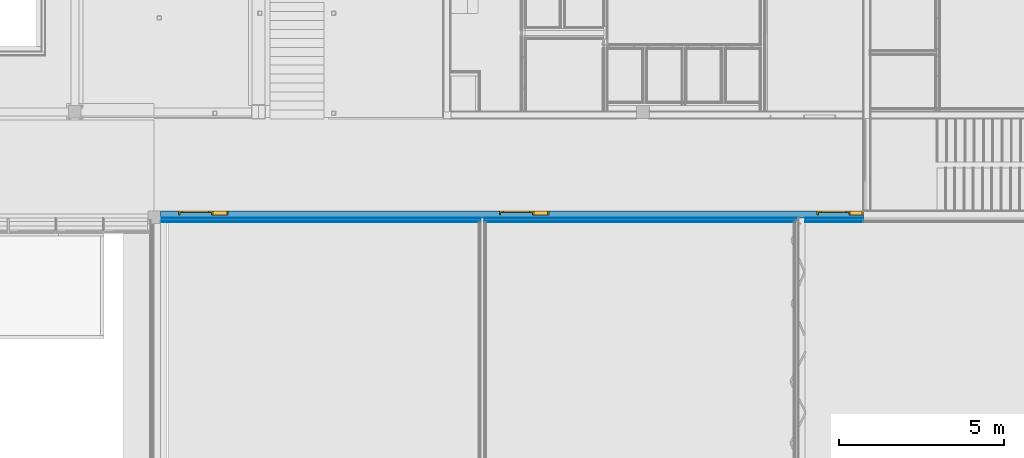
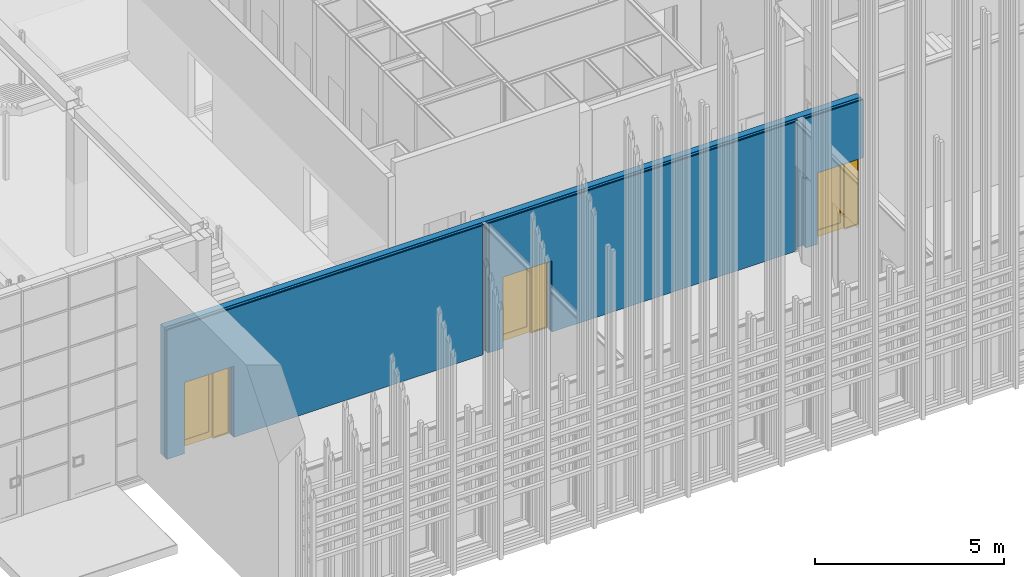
# One storey, part 119 of 260: 7 building element parts, 3 doors, 3 openings, 1 element without a shape of its own.
"""IFC2X3 building model written with IfcOpenShell, lengths in millimetres."""

from ifc_helpers import new_model, entity, si_unit, converted_unit, derived_unit, money_unit, direction, frame, origin_with_axes, place, context, subcontext, project, spatial, open_shell, faceted_brep, surface_model, source, transform, mapped, material, type_object, element, fill, aggregate, save


model = new_model("IFC2X3")

# Units and contexts
model_context = context("Model", 3, precision=0.01, world=origin_with_axes(), true_north=direction((0.0, 1.0)))
body_context = subcontext(model_context, "Body", "Model", "MODEL_VIEW")
ifc_project = project(units=[si_unit("LENGTHUNIT", "METRE", prefix="MILLI"), si_unit("AREAUNIT", "SQUARE_METRE"), si_unit("VOLUMEUNIT", "CUBIC_METRE"), converted_unit("PLANEANGLEUNIT", "DEGREE", entity("IfcPlaneAngleMeasure", 0.0174532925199), si_unit("PLANEANGLEUNIT", "RADIAN"), dimensions=[0, 0, 0, 0, 0, 0, 0]), money_unit("EUR"), converted_unit("TIMEUNIT", "Year", entity("IfcTimeMeasure", 31556926.0), si_unit("TIMEUNIT", "SECOND"), dimensions=[0, 0, 1, 0, 0, 0, 0]), si_unit("MASSUNIT", "GRAM", prefix="KILO"), si_unit("THERMODYNAMICTEMPERATUREUNIT", "DEGREE_CELSIUS"), si_unit("LUMINOUSINTENSITYUNIT", "LUMEN"), si_unit("ENERGYUNIT", "JOULE", prefix="MEGA"), derived_unit("THERMALCONDUCTANCEUNIT", [(si_unit("POWERUNIT", "WATT"), 1), (si_unit("LENGTHUNIT", "METRE"), -1), (si_unit("THERMODYNAMICTEMPERATUREUNIT", "KELVIN"), -1)]), derived_unit("SPECIFICHEATCAPACITYUNIT", [(si_unit("ENERGYUNIT", "JOULE"), 1), (si_unit("MASSUNIT", "GRAM", prefix="KILO"), -1), (si_unit("THERMODYNAMICTEMPERATUREUNIT", "KELVIN"), -1)]), derived_unit("MASSDENSITYUNIT", [(si_unit("MASSUNIT", "GRAM", prefix="KILO"), 1), (si_unit("VOLUMEUNIT", "CUBIC_METRE"), -1)])], contexts=[model_context])

# Site, building, storey
site_placement = place(None, origin_with_axes())
site = spatial("IfcSite", under=ifc_project, at=site_placement, Name="Kolde pst 67a", CompositionType="ELEMENT")
building_placement = place(site_placement, origin_with_axes())
building = spatial("IfcBuilding", under=site, at=building_placement, Name="Riigigümnaasium", CompositionType="ELEMENT")
storey_placement = place(building_placement, origin_with_axes())
storey = spatial("IfcBuildingStorey", under=building, at=storey_placement, Name="1. korrus", CompositionType="ELEMENT", Elevation=0.0)

# Door
door_style = type_object("IfcDoorStyle", Name="Door with Sidelight on Side 2 25", ConstructionType="NOTDEFINED", OperationType="SINGLE_SWING_LEFT", ParameterTakesPrecedence=False, Sizeable=False)
wall_placement = place(storey_placement, frame((55369.9802711, 7900.0, 0.0), z_axis=(0.0, 0.0, 1.0), x_axis=(1.0, 0.0, 0.0)))
opening_3_placement = place(wall_placement, frame((20540.0144264, 0.0, 0.0), z_axis=(0.0, 0.0, 1.0), x_axis=(1.0, 0.0, 0.0)))
door_1_placement = place(opening_3_placement, frame((-700.0, 0.0, 0.0), z_axis=(0.0, 0.0, 1.0), x_axis=(1.0, 0.0, 0.0)))
door_1 = element("IfcDoor", 1, at=door_1_placement, inside=storey, type_object=door_style, Name="Siseuks", ObjectType="DOOR", OverallHeight=2300.0, OverallWidth=1400.0, context=body_context, shape_type="SurfaceModel", body=[
    faceted_brep([(1400.0, 0.0, 0.0), (1400.0, -115.0, 0.0), (1360.0, -115.0, 0.0), (1360.0, 0.0, 0.0), (1400.0, 0.0, 2260.0), (1400.0, -115.0, 2260.0), (1360.0, -115.0, 2260.0), (1360.0, -115.0, 40.0), (1360.0, 0.0, 40.0), (1360.0, 0.0, 2260.0)], [[[0, 1, 2, 3]], [[4, 5, 1, 0]], [[1, 5, 6, 7, 2]], [[3, 2, 7, 8]], [[0, 3, 8, 9, 4]], [[9, 6, 5, 4]], [[8, 7, 6, 9]]]),
    faceted_brep([(960.004445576, -40.0, 0.0), (960.004445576, -115.0, 0.0), (960.004445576, -115.0, 2260.0), (960.004445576, -40.0, 2260.0), (972.004445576, -40.0, 0.0), (972.004445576, 0.0, 0.0), (1000.00444558, 0.0, 0.0), (1000.00444558, -115.0, 0.0), (1000.00444558, -115.0, 40.0), (1000.00444558, -115.0, 2260.0), (972.004445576, -40.0, 2260.0), (1000.00444558, 0.0, 2260.0), (972.004445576, 0.0, 2260.0), (1000.00444558, 0.0, 40.0)], [[[0, 1, 2, 3]], [[4, 5, 6, 7, 1, 0]], [[7, 8, 9, 2, 1]], [[10, 3, 2, 9, 11, 12]], [[10, 4, 0, 3]], [[12, 5, 4, 10]], [[12, 11, 13, 6, 5]], [[6, 13, 8, 7]], [[13, 11, 9, 8]]]),
    faceted_brep([(1360.0, 0.0, 40.0), (1360.0, -115.0, 40.0), (1360.0, -115.0, 0.0), (1360.0, 0.0, 0.0), (1000.00444558, 0.0, 40.0), (1000.00444558, -115.0, 40.0), (1000.00444558, -115.0, 0.0), (1000.00444558, 0.0, 0.0)], [[[0, 1, 2, 3]], [[4, 5, 1, 0]], [[1, 5, 6, 2]], [[3, 2, 6, 7]], [[0, 3, 7, 4]], [[7, 6, 5, 4]]]),
    faceted_brep([(28.0, -40.0, 2260.0), (28.0, 0.0, 2260.0), (0.0, 0.0, 2260.0), (0.0, -115.0, 2260.0), (40.0, -115.0, 2260.0), (40.0, -40.0, 2260.0), (28.0, -40.0, 0.0), (28.0, 0.0, 0.0), (0.0, 0.0, 0.0), (0.0, -115.0, 0.0), (40.0, -115.0, 0.0), (40.0, -40.0, 0.0)], [[[0, 1, 2, 3, 4, 5]], [[0, 6, 7, 1]], [[7, 8, 2, 1]], [[2, 8, 9, 3]], [[3, 9, 10, 4]], [[5, 4, 10, 11]], [[5, 11, 6, 0]], [[6, 11, 10, 9, 8, 7]]]),
    faceted_brep([(972.004445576, 0.0, 2272.0), (28.0, 0.0, 2272.0), (28.0, 0.0, 2260.0), (0.0, 0.0, 2260.0), (0.0, 0.0, 2300.0), (1400.0, 0.0, 2300.0), (1400.0, 0.0, 2260.0), (1360.0, 0.0, 2260.0), (1000.00444558, 0.0, 2260.0), (972.004445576, 0.0, 2260.0), (972.004445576, -40.0, 2272.0), (28.0, -40.0, 2272.0), (28.0, -40.0, 2260.0), (40.0, -40.0, 2260.0), (40.0, -115.0, 2260.0), (0.0, -115.0, 2260.0), (0.0, -115.0, 2300.0), (1400.0, -115.0, 2300.0), (1400.0, -115.0, 2260.0), (1360.0, -115.0, 2260.0), (1000.00444558, -115.0, 2260.0), (972.004445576, -40.0, 2260.0), (960.004445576, -115.0, 2260.0)], [[[0, 1, 2, 3, 4, 5, 6, 7, 8, 9]], [[0, 10, 11, 1]], [[1, 11, 12, 2]], [[12, 13, 14, 15, 3, 2]], [[4, 3, 15, 16]], [[5, 4, 16, 17]], [[6, 5, 17, 18]], [[7, 6, 18, 19]], [[8, 7, 19, 20]], [[21, 9, 8, 20, 22, 14, 13]], [[9, 21, 10, 0]], [[12, 11, 10, 21, 13]], [[14, 22, 20, 19, 18, 17, 16, 15]]]),
    faceted_brep([(28.0, 0.0, 200.0), (128.0, 0.0, 200.0), (128.0, -40.0, 200.0), (28.0, -40.0, 200.0), (28.0, 0.0, 2172.0), (128.0, 0.0, 2172.0), (128.0, -40.0, 2172.0), (28.0, -40.0, 2172.0)], [[[0, 1, 2, 3]], [[0, 4, 5, 1]], [[1, 5, 6, 2]], [[3, 2, 6, 7]], [[4, 0, 3, 7]], [[5, 4, 7, 6]]]),
    faceted_brep([(972.004445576, 0.0, 200.0), (972.004445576, 0.0, 2172.0), (972.004445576, -40.0, 2172.0), (972.004445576, -40.0, 200.0), (872.004445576, 0.0, 200.0), (872.004445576, 0.0, 2172.0), (872.004445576, -40.0, 2172.0), (872.004445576, -40.0, 200.0)], [[[0, 1, 2, 3]], [[0, 4, 5, 1]], [[1, 5, 6, 2]], [[3, 2, 6, 7]], [[4, 0, 3, 7]], [[5, 4, 7, 6]]]),
    faceted_brep([(28.0, 0.0, 0.0), (972.004445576, 0.0, 0.0), (972.004445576, -40.0, 0.0), (28.0, -40.0, 0.0), (28.0, 0.0, 200.0), (128.0, 0.0, 200.0), (872.004445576, 0.0, 200.0), (972.004445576, 0.0, 200.0), (972.004445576, -40.0, 200.0), (872.004445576, -40.0, 200.0), (128.0, -40.0, 200.0), (28.0, -40.0, 200.0)], [[[0, 1, 2, 3]], [[0, 4, 5, 6, 7, 1]], [[1, 7, 8, 2]], [[3, 2, 8, 9, 10, 11]], [[4, 0, 3, 11]], [[5, 4, 11, 10]], [[6, 5, 10, 9]], [[7, 6, 9, 8]]]),
    faceted_brep([(28.0, 0.0, 2272.0), (28.0, 0.0, 2172.0), (28.0, -40.0, 2172.0), (28.0, -40.0, 2272.0), (972.004445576, 0.0, 2272.0), (972.004445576, 0.0, 2172.0), (872.004445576, 0.0, 2172.0), (128.0, 0.0, 2172.0), (128.0, -40.0, 2172.0), (872.004445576, -40.0, 2172.0), (972.004445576, -40.0, 2172.0), (972.004445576, -40.0, 2272.0)], [[[0, 1, 2, 3]], [[0, 4, 5, 6, 7, 1]], [[1, 7, 8, 2]], [[3, 2, 8, 9, 10, 11]], [[4, 0, 3, 11]], [[5, 4, 11, 10]], [[6, 5, 10, 9]], [[7, 6, 9, 8]]]),
    surface_model("IfcShellBasedSurfaceModel", [(128.0, -14.0, 200.0), (128.0, -14.0, 2172.0), (872.004445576, -14.0, 2172.0), (872.004445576, -14.0, 200.0)], [open_shell([[[0, 1, 2, 3]]])]),
    surface_model("IfcShellBasedSurfaceModel", [(128.0, -26.0, 200.0), (872.004445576, -26.0, 200.0), (872.004445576, -26.0, 2172.0), (128.0, -26.0, 2172.0)], [open_shell([[[0, 1, 2, 3]]])]),
    surface_model("IfcShellBasedSurfaceModel", [(1360.0, -91.0, 40.0), (1000.00444558, -91.0, 40.0), (1000.00444558, -91.0, 2260.0), (1360.0, -91.0, 2260.0)], [open_shell([[[0, 1, 2, 3]]])]),
    surface_model("IfcShellBasedSurfaceModel", [(1360.0, -103.0, 40.0), (1360.0, -103.0, 2260.0), (1000.00444558, -103.0, 2260.0), (1000.00444558, -103.0, 40.0)], [open_shell([[[0, 1, 2, 3]]])]),
])

shared_shape = source(origin_with_axes(), body_context, "Body", "SurfaceModel", [
    faceted_brep([(750.0, 0.0, 0.0), (750.0, -115.0, 0.0), (710.0, -115.0, 0.0), (710.0, 0.0, 0.0), (750.0, 0.0, 2260.0), (750.0, -115.0, 2260.0), (710.0, -115.0, 2260.0), (710.0, -115.0, 40.0), (710.0, 0.0, 40.0), (710.0, 0.0, 2260.0)], [[[0, 1, 2, 3]], [[4, 5, 1, 0]], [[1, 5, 6, 7, 2]], [[3, 2, 7, 8]], [[0, 3, 8, 9, 4]], [[9, 6, 5, 4]], [[8, 7, 6, 9]]]),
    faceted_brep([(250.0, -40.0, 0.0), (250.0, -115.0, 0.0), (250.0, -115.0, 2260.0), (250.0, -40.0, 2260.0), (262.0, -40.0, 0.0), (262.0, 0.0, 0.0), (290.0, 0.0, 0.0), (290.0, -115.0, 0.0), (290.0, -115.0, 40.0), (290.0, -115.0, 2260.0), (262.0, -40.0, 2260.0), (290.0, 0.0, 2260.0), (262.0, 0.0, 2260.0), (290.0, 0.0, 40.0)], [[[0, 1, 2, 3]], [[4, 5, 6, 7, 1, 0]], [[7, 8, 9, 2, 1]], [[10, 3, 2, 9, 11, 12]], [[10, 4, 0, 3]], [[12, 5, 4, 10]], [[12, 11, 13, 6, 5]], [[6, 13, 8, 7]], [[13, 11, 9, 8]]]),
    faceted_brep([(710.0, 0.0, 40.0), (710.0, -115.0, 40.0), (710.0, -115.0, 0.0), (710.0, 0.0, 0.0), (290.0, 0.0, 40.0), (290.0, -115.0, 40.0), (290.0, -115.0, 0.0), (290.0, 0.0, 0.0)], [[[0, 1, 2, 3]], [[4, 5, 1, 0]], [[1, 5, 6, 2]], [[3, 2, 6, 7]], [[0, 3, 7, 4]], [[7, 6, 5, 4]]]),
    faceted_brep([(-722.0, -40.0, 2260.0), (-722.0, 0.0, 2260.0), (-750.0, 0.0, 2260.0), (-750.0, -115.0, 2260.0), (-710.0, -115.0, 2260.0), (-710.0, -40.0, 2260.0), (-722.0, -40.0, 0.0), (-722.0, 0.0, 0.0), (-750.0, 0.0, 0.0), (-750.0, -115.0, 0.0), (-710.0, -115.0, 0.0), (-710.0, -40.0, 0.0)], [[[0, 1, 2, 3, 4, 5]], [[0, 6, 7, 1]], [[7, 8, 2, 1]], [[2, 8, 9, 3]], [[3, 9, 10, 4]], [[5, 4, 10, 11]], [[5, 11, 6, 0]], [[6, 11, 10, 9, 8, 7]]]),
    faceted_brep([(262.0, 0.0, 2272.0), (-722.0, 0.0, 2272.0), (-722.0, 0.0, 2260.0), (-750.0, 0.0, 2260.0), (-750.0, 0.0, 2300.0), (750.0, 0.0, 2300.0), (750.0, 0.0, 2260.0), (710.0, 0.0, 2260.0), (290.0, 0.0, 2260.0), (262.0, 0.0, 2260.0), (262.0, -40.0, 2272.0), (-722.0, -40.0, 2272.0), (-722.0, -40.0, 2260.0), (-710.0, -40.0, 2260.0), (-710.0, -115.0, 2260.0), (-750.0, -115.0, 2260.0), (-750.0, -115.0, 2300.0), (750.0, -115.0, 2300.0), (750.0, -115.0, 2260.0), (710.0, -115.0, 2260.0), (290.0, -115.0, 2260.0), (262.0, -40.0, 2260.0), (250.0, -115.0, 2260.0)], [[[0, 1, 2, 3, 4, 5, 6, 7, 8, 9]], [[0, 10, 11, 1]], [[1, 11, 12, 2]], [[12, 13, 14, 15, 3, 2]], [[4, 3, 15, 16]], [[5, 4, 16, 17]], [[6, 5, 17, 18]], [[7, 6, 18, 19]], [[8, 7, 19, 20]], [[21, 9, 8, 20, 22, 14, 13]], [[9, 21, 10, 0]], [[12, 11, 10, 21, 13]], [[14, 22, 20, 19, 18, 17, 16, 15]]]),
    faceted_brep([(-722.0, 0.0, 200.0), (-622.0, 0.0, 200.0), (-622.0, -40.0, 200.0), (-722.0, -40.0, 200.0), (-722.0, 0.0, 2172.0), (-622.0, 0.0, 2172.0), (-622.0, -40.0, 2172.0), (-722.0, -40.0, 2172.0)], [[[0, 1, 2, 3]], [[0, 4, 5, 1]], [[1, 5, 6, 2]], [[3, 2, 6, 7]], [[4, 0, 3, 7]], [[5, 4, 7, 6]]]),
    faceted_brep([(262.0, 0.0, 200.0), (262.0, 0.0, 2172.0), (262.0, -40.0, 2172.0), (262.0, -40.0, 200.0), (162.0, 0.0, 200.0), (162.0, 0.0, 2172.0), (162.0, -40.0, 2172.0), (162.0, -40.0, 200.0)], [[[0, 1, 2, 3]], [[0, 4, 5, 1]], [[1, 5, 6, 2]], [[3, 2, 6, 7]], [[4, 0, 3, 7]], [[5, 4, 7, 6]]]),
    faceted_brep([(-722.0, 0.0, 0.0), (262.0, 0.0, 0.0), (262.0, -40.0, 0.0), (-722.0, -40.0, 0.0), (-722.0, 0.0, 200.0), (-622.0, 0.0, 200.0), (162.0, 0.0, 200.0), (262.0, 0.0, 200.0), (262.0, -40.0, 200.0), (162.0, -40.0, 200.0), (-622.0, -40.0, 200.0), (-722.0, -40.0, 200.0)], [[[0, 1, 2, 3]], [[0, 4, 5, 6, 7, 1]], [[1, 7, 8, 2]], [[3, 2, 8, 9, 10, 11]], [[4, 0, 3, 11]], [[5, 4, 11, 10]], [[6, 5, 10, 9]], [[7, 6, 9, 8]]]),
    faceted_brep([(-722.0, 0.0, 2272.0), (-722.0, 0.0, 2172.0), (-722.0, -40.0, 2172.0), (-722.0, -40.0, 2272.0), (262.0, 0.0, 2272.0), (262.0, 0.0, 2172.0), (162.0, 0.0, 2172.0), (-622.0, 0.0, 2172.0), (-622.0, -40.0, 2172.0), (162.0, -40.0, 2172.0), (262.0, -40.0, 2172.0), (262.0, -40.0, 2272.0)], [[[0, 1, 2, 3]], [[0, 4, 5, 6, 7, 1]], [[1, 7, 8, 2]], [[3, 2, 8, 9, 10, 11]], [[4, 0, 3, 11]], [[5, 4, 11, 10]], [[6, 5, 10, 9]], [[7, 6, 9, 8]]]),
    surface_model("IfcShellBasedSurfaceModel", [(-622.0, -14.0, 200.0), (-622.0, -14.0, 2172.0), (162.0, -14.0, 2172.0), (162.0, -14.0, 200.0)], [open_shell([[[0, 1, 2, 3]]])]),
    surface_model("IfcShellBasedSurfaceModel", [(-622.0, -26.0, 200.0), (162.0, -26.0, 200.0), (162.0, -26.0, 2172.0), (-622.0, -26.0, 2172.0)], [open_shell([[[0, 1, 2, 3]]])]),
    surface_model("IfcShellBasedSurfaceModel", [(710.0, -91.0, 40.0), (290.0, -91.0, 40.0), (290.0, -91.0, 2260.0), (710.0, -91.0, 2260.0)], [open_shell([[[0, 1, 2, 3]]])]),
    surface_model("IfcShellBasedSurfaceModel", [(710.0, -103.0, 40.0), (710.0, -103.0, 2260.0), (290.0, -103.0, 2260.0), (290.0, -103.0, 40.0)], [open_shell([[[0, 1, 2, 3]]])]),
])
opening_1_placement = place(wall_placement, frame((1290.00089816, 0.0, 0.0), z_axis=(0.0, 0.0, 1.0), x_axis=(1.0, 0.0, 0.0)))
door_2_placement = place(opening_1_placement, frame((-750.0, 0.0, 0.0), z_axis=(0.0, 0.0, 1.0), x_axis=(1.0, 0.0, 0.0)))
door_2 = element("IfcDoor", 2, at=door_2_placement, inside=storey, type_object=door_style, Name="Siseuks", ObjectType="DOOR", OverallHeight=2300.0, OverallWidth=1500.0, context=body_context, shape_type="MappedRepresentation", body=[
    mapped(shared_shape, transform((750.0, 0.0, 0.0))),
])

opening_2_placement = place(wall_placement, frame((10990.0101657, 0.0, 0.0), z_axis=(0.0, 0.0, 1.0), x_axis=(1.0, 0.0, 0.0)))
door_3_placement = place(opening_2_placement, frame((-750.0, 0.0, 0.0), z_axis=(0.0, 0.0, 1.0), x_axis=(1.0, 0.0, 0.0)))
door_3 = element("IfcDoor", 3, at=door_3_placement, inside=storey, type_object=door_style, Name="Siseuks", ObjectType="DOOR", OverallHeight=2300.0, OverallWidth=1500.0, context=body_context, shape_type="MappedRepresentation", body=[
    mapped(shared_shape, transform((750.0, 0.0, 0.0))),
])

# Wall, opening
wall_type = type_object("IfcWallType", Name="SS-CLT-20/1_vill+krohv 340", PredefinedType="NOTDEFINED")
wall = element("IfcWall", 4, at=wall_placement, inside=storey, type_object=wall_type, Name="Sisesein")
opening_1 = element("IfcOpeningElement", 5, at=opening_1_placement, cuts=wall, Name="Siseuks", context=body_context, shape_type="Brep", body=[
    faceted_brep([(-750.0, 680.0, 2300.0), (-750.0, 680.0, 0.0), (-750.0, -340.0, 0.0), (-750.0, -340.0, 2300.0), (750.0, 680.0, 2300.0), (750.0, 680.0, 0.0), (750.0, -340.0, 0.0), (750.0, -340.0, 2300.0)], [[[0, 1, 2, 3]], [[0, 4, 5, 1]], [[1, 5, 6, 2]], [[3, 2, 6, 7]], [[4, 0, 3, 7]], [[5, 4, 7, 6]]]),
])

fill(opening_1, door_2)

# Opening
opening_2 = element("IfcOpeningElement", 6, at=opening_2_placement, cuts=wall, Name="Siseuks", context=body_context, shape_type="Brep", body=[
    faceted_brep([(-750.0, 680.0, 2300.0), (-750.0, 680.0, 0.0), (-750.0, -340.0, 0.0), (-750.0, -340.0, 2300.0), (750.0, 680.0, 2300.0), (750.0, 680.0, 0.0), (750.0, -340.0, 0.0), (750.0, -340.0, 2300.0)], [[[0, 1, 2, 3]], [[0, 4, 5, 1]], [[1, 5, 6, 2]], [[3, 2, 6, 7]], [[4, 0, 3, 7]], [[5, 4, 7, 6]]]),
])

fill(opening_2, door_3)

opening_3 = element("IfcOpeningElement", 7, at=opening_3_placement, cuts=wall, Name="Siseuks", context=body_context, shape_type="Brep", body=[
    faceted_brep([(-700.0, 680.0, 2300.0), (-700.0, 680.0, 0.0), (-700.0, -340.0, 0.0), (-700.0, -340.0, 2300.0), (700.0, 680.0, 2300.0), (700.0, 680.0, 0.0), (700.0, -340.0, 0.0), (700.0, -340.0, 2300.0)], [[[0, 1, 2, 3]], [[0, 4, 5, 1]], [[1, 5, 6, 2]], [[3, 2, 6, 7]], [[4, 0, 3, 7]], [[5, 4, 7, 6]]]),
])

fill(opening_3, door_1)

# Building element part
ifc_material_1 = material(Name="_KANDETARIND - CLT ristkihtliimpuit vastavalt EK osale, CLT paigaldusvuugid teibitakse ROTHOBLAAS teibiga")
building_element_part_1_placement = place(wall_placement, origin_with_axes())
building_element_part_1 = element("IfcBuildingElementPart", 8, at=building_element_part_1_placement, material=ifc_material_1, Name="_KANDETARIND - CLT ristkihtliimpuit vastavalt EK osale, CLT paigaldusvuugid teibitakse ROTHOBLAAS teibiga", context=body_context, shape_type="Brep", body=[
    faceted_brep([(21240.0144264, -200.0, 4170.0), (21240.0144264, -200.0, 2300.0), (21240.0144264, 0.0, 2300.0), (21240.0144264, 0.0, 4170.0), (19840.0144264, -200.0, 0.0), (19840.0144264, -200.0, 2300.0), (0.0, -200.0, 4170.0), (0.0, -200.0, 0.0), (540.00089816, -200.0, 0.0), (540.00089816, -200.0, 2300.0), (2040.00089816, -200.0, 2300.0), (2040.00089816, -200.0, 0.0), (10240.0101657, -200.0, 0.0), (10240.0101657, -200.0, 2300.0), (11740.0101657, -200.0, 2300.0), (11740.0101657, -200.0, 0.0), (19840.0144264, 0.0, 2300.0), (19840.0144264, 0.0, 0.0), (11740.0101657, 0.0, 0.0), (11740.0101657, 0.0, 2300.0), (10240.0101657, 0.0, 2300.0), (10240.0101657, 0.0, 0.0), (2040.00089816, 0.0, 0.0), (2040.00089816, 0.0, 2300.0), (540.00089816, 0.0, 2300.0), (540.00089816, 0.0, 0.0), (0.0, 0.0, 0.0), (0.0, 0.0, 4170.0)], [[[0, 1, 2, 3]], [[4, 5, 1, 0, 6, 7, 8, 9, 10, 11, 12, 13, 14, 15]], [[5, 16, 2, 1]], [[2, 16, 17, 18, 19, 20, 21, 22, 23, 24, 25, 26, 27, 3]], [[27, 6, 0, 3]], [[4, 17, 16, 5]], [[26, 7, 6, 27]], [[8, 7, 26, 25]], [[24, 9, 8, 25]], [[23, 10, 9, 24]], [[22, 11, 10, 23]], [[21, 12, 11, 22]], [[21, 20, 13, 12]], [[20, 19, 14, 13]], [[19, 18, 15, 14]], [[18, 17, 4, 15]]]),
])

ifc_material_2 = material(Name="_ÕHKVAHE")
building_element_part_2_placement = place(wall_placement, origin_with_axes())
building_element_part_2 = element("IfcBuildingElementPart", 9, at=building_element_part_2_placement, material=ifc_material_2, Name="_ÕHKVAHE", context=body_context, shape_type="Brep", body=[
    faceted_brep([(2040.00089816, -200.0, 2300.0), (540.00089816, -200.0, 2300.0), (540.00089816, -200.0, 0.0), (0.0, -200.0, 0.0), (0.0, -200.0, 4170.0), (9680.01016569, -200.0, 4170.0), (9680.01016569, -200.0, 0.0), (2040.00089816, -200.0, 0.0), (540.00089816, -215.0, 2300.0), (2040.00089816, -215.0, 2300.0), (540.00089816, -215.0, 0.0), (0.0, -215.0, 0.0), (0.0, -215.0, 4170.0), (9680.01016569, -215.0, 4170.0), (9680.01016569, -215.0, 0.0), (2040.00089816, -215.0, 0.0)], [[[0, 1, 2, 3, 4, 5, 6, 7]], [[8, 1, 0, 9]], [[10, 2, 1, 8]], [[3, 2, 10, 11]], [[12, 4, 3, 11]], [[13, 5, 4, 12]], [[5, 13, 14, 6]], [[14, 15, 7, 6]], [[9, 0, 7, 15]], [[8, 9, 15, 14, 13, 12, 11, 10]]]),
    faceted_brep([(21240.0144264, -215.0, 2300.0), (21240.0144264, -200.0, 2300.0), (21240.0144264, -200.0, 4170.0), (21240.0144264, -215.0, 4170.0), (19840.0144264, -200.0, 2300.0), (19840.0144264, -215.0, 2300.0), (19840.0144264, -200.0, 0.0), (19480.0146113, -200.0, 0.0), (19480.0146113, -200.0, 4170.0), (19480.0146113, -215.0, 4170.0), (19480.0146113, -215.0, 0.0), (19840.0144264, -215.0, 0.0)], [[[0, 1, 2, 3]], [[4, 1, 0, 5]], [[4, 6, 7, 8, 2, 1]], [[2, 8, 9, 3]], [[5, 0, 3, 9, 10, 11]], [[6, 4, 5, 11]], [[6, 11, 10, 7]], [[8, 7, 10, 9]]]),
    faceted_brep([(10240.0101657, -200.0, 2300.0), (10240.0101657, -200.0, 0.0), (9780.01016569, -200.0, 0.0), (9780.01016569, -200.0, 4170.0), (19280.0146113, -200.0, 4170.0), (19280.0146113, -200.0, 0.0), (11740.0101657, -200.0, 0.0), (11740.0101657, -200.0, 2300.0), (10240.0101657, -215.0, 2300.0), (10240.0101657, -215.0, 0.0), (9780.01016569, -215.0, 0.0), (9780.01016569, -215.0, 4170.0), (19280.0146113, -215.0, 4170.0), (19280.0146113, -215.0, 0.0), (11740.0101657, -215.0, 0.0), (11740.0101657, -215.0, 2300.0)], [[[0, 1, 2, 3, 4, 5, 6, 7]], [[1, 0, 8, 9]], [[1, 9, 10, 2]], [[3, 2, 10, 11]], [[4, 3, 11, 12]], [[12, 13, 5, 4]], [[14, 6, 5, 13]], [[7, 6, 14, 15]], [[0, 7, 15, 8]], [[15, 14, 13, 12, 11, 10, 9, 8]]]),
])

ifc_material_3 = material(Name="_KARKASS - metallkarkass CW 75/50/06 ja UW 75/40/06, samm 600, vahel mineraalvill, helineeldetegur αw = 1.0,  ISOVER ACOUSTIC 75mm või samaväärne")
building_element_part_3_placement = place(wall_placement, origin_with_axes())
building_element_part_3 = element("IfcBuildingElementPart", 10, at=building_element_part_3_placement, material=ifc_material_3, Name="_KARKASS - metallkarkass CW 75/50/06 ja UW 75/40/06, samm 600, vahel mineraalvill, helineeldetegur αw = 1.0,  ISOVER ACOUSTIC 75mm või samaväärne", context=body_context, shape_type="Brep", body=[
    faceted_brep([(2040.00089816, -215.0, 0.0), (2040.00089816, -215.0, 2300.0), (540.00089816, -215.0, 2300.0), (540.00089816, -215.0, 0.0), (0.0, -215.0, 0.0), (0.0, -215.0, 4170.0), (9680.01016569, -215.0, 4170.0), (9680.01016569, -215.0, 0.0), (2040.00089816, -290.0, 0.0), (2040.00089816, -290.0, 2300.0), (540.00089816, -290.0, 2300.0), (540.00089816, -290.0, 0.0), (0.0, -290.0, 0.0), (0.00102316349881, -279.845539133, 4170.0), (0.00106320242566, -289.999999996, 4170.0), (9680.01016569, -290.0, 4170.0), (9680.01016569, -290.0, 0.0)], [[[0, 1, 2, 3, 4, 5, 6, 7]], [[8, 9, 1, 0]], [[9, 10, 2, 1]], [[10, 11, 3, 2]], [[12, 4, 3, 11]], [[13, 5, 4, 12, 14]], [[15, 6, 5, 13, 14]], [[7, 6, 15, 16]], [[7, 16, 8, 0]], [[11, 10, 9, 8, 16, 15, 14, 12]]]),
    faceted_brep([(21240.0144264, -290.0, 2300.0), (21240.0144264, -215.0, 2300.0), (21240.0144264, -215.0, 4170.0), (21240.0144264, -290.0, 4170.0), (19840.0144264, -215.0, 2300.0), (19840.0144264, -290.0, 2300.0), (19840.0144264, -215.0, 0.0), (19480.0146113, -215.0, 0.0), (19480.0146113, -215.0, 4170.0), (19480.0146113, -290.0, 4170.0), (19480.0146113, -290.0, 0.0), (19840.0144264, -290.0, 0.0)], [[[0, 1, 2, 3]], [[4, 1, 0, 5]], [[4, 6, 7, 8, 2, 1]], [[2, 8, 9, 3]], [[5, 0, 3, 9, 10, 11]], [[6, 4, 5, 11]], [[6, 11, 10, 7]], [[8, 7, 10, 9]]]),
    faceted_brep([(10240.0101657, -215.0, 2300.0), (10240.0101657, -215.0, 0.0), (9780.01016569, -215.0, 0.0), (9780.01016569, -215.0, 4170.0), (19265.0146113, -215.0, 4170.0), (19265.0146113, -215.0, 0.0), (11740.0101657, -215.0, 0.0), (11740.0101657, -215.0, 2300.0), (10240.0101657, -290.0, 2300.0), (10240.0101657, -290.0, 0.0), (9780.01016569, -290.0, 0.0), (9780.01016569, -290.0, 4170.0), (19265.0146113, -290.0, 4170.0), (19265.0146113, -290.0, 0.0), (11740.0101657, -290.0, 0.0), (11740.0101657, -290.0, 2300.0)], [[[0, 1, 2, 3, 4, 5, 6, 7]], [[1, 0, 8, 9]], [[1, 9, 10, 2]], [[3, 2, 10, 11]], [[4, 3, 11, 12]], [[12, 13, 5, 4]], [[14, 6, 5, 13]], [[7, 6, 14, 15]], [[0, 7, 15, 8]], [[15, 14, 13, 12, 11, 10, 9, 8]]]),
])

ifc_material_4 = material(Name="_PLAATMATERJAL - OSB3 plaat")
building_element_part_4_placement = place(wall_placement, origin_with_axes())
building_element_part_4 = element("IfcBuildingElementPart", 11, at=building_element_part_4_placement, material=ifc_material_4, Name="_PLAATMATERJAL - OSB3 plaat", context=body_context, shape_type="Brep", body=[
    faceted_brep([(2040.00089816, -289.999999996, 2300.0), (540.00089816, -289.999999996, 2300.0), (540.00089816, -290.0, 0.0), (0.0, -290.0, 0.0), (0.00106320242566, -289.999999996, 4170.0), (9680.01016569, -290.0, 4170.0), (9680.01016569, -290.0, 0.0), (2040.00089816, -290.0, 0.0), (540.00089816, -300.0, 2300.0), (2040.00089816, -300.0, 2300.0), (540.00089816, -300.0, 0.0), (0.0, -300.0, 0.0), (0.00110263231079, -299.999999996, 4170.0), (9680.01016569, -300.0, 4170.0), (9680.01016569, -300.0, 0.0), (2040.00089816, -300.0, 0.0)], [[[0, 1, 2, 3, 4, 5, 6, 7]], [[8, 1, 0, 9]], [[10, 2, 1, 8]], [[3, 2, 10, 11]], [[12, 4, 3, 11]], [[13, 5, 4, 12]], [[5, 13, 14, 6]], [[14, 15, 7, 6]], [[9, 0, 7, 15]], [[8, 9, 15, 14, 13, 12, 11, 10]]]),
    faceted_brep([(21240.0144264, -300.0, 2300.0), (21240.0144264, -290.0, 2300.0), (21240.0144264, -290.0, 4170.0), (21240.0144264, -300.0, 4170.0), (19840.0144264, -290.0, 2300.0), (19840.0144264, -300.0, 2300.0), (19840.0144264, -290.0, 0.0), (19480.0146113, -290.0, 0.0), (19480.0146113, -290.0, 4170.0), (19480.0146113, -300.0, 4170.0), (19480.0146113, -300.0, 0.0), (19840.0144264, -300.0, 0.0)], [[[0, 1, 2, 3]], [[4, 1, 0, 5]], [[4, 6, 7, 8, 2, 1]], [[2, 8, 9, 3]], [[5, 0, 3, 9, 10, 11]], [[6, 4, 5, 11]], [[6, 11, 10, 7]], [[8, 7, 10, 9]]]),
    faceted_brep([(10240.0101657, -290.0, 2300.0), (10240.0101657, -290.0, 0.0), (9780.01016569, -290.0, 0.0), (9780.01016569, -290.0, 4170.0), (19190.0146113, -290.0, 4170.0), (19190.0146113, -290.0, 0.0), (11740.0101657, -290.0, 0.0), (11740.0101657, -290.0, 2300.0), (10240.0101657, -300.0, 2300.0), (10240.0101657, -300.0, 0.0), (9780.01016569, -300.0, 0.0), (9780.01016569, -300.0, 4170.0), (19190.0146113, -300.0, 4170.0), (19190.0146113, -300.0, 0.0), (11740.0101657, -300.0, 0.0), (11740.0101657, -300.0, 2300.0)], [[[0, 1, 2, 3, 4, 5, 6, 7]], [[1, 0, 8, 9]], [[1, 9, 10, 2]], [[3, 2, 10, 11]], [[4, 3, 11, 12]], [[12, 13, 5, 4]], [[14, 6, 5, 13]], [[7, 6, 14, 15]], [[0, 7, 15, 8]], [[15, 14, 13, 12, 11, 10, 9, 8]]]),
])

ifc_material_5 = material(Name="_PLAATMATERJAL - tuletõkkekipsplaat, Knauf Red GKF või samaväärne")
building_element_part_5_placement = place(wall_placement, origin_with_axes())
building_element_part_5 = element("IfcBuildingElementPart", 12, at=building_element_part_5_placement, material=ifc_material_5, Name="_PLAATMATERJAL - tuletõkkekipsplaat, Knauf Red GKF või samaväärne", context=body_context, shape_type="Brep", body=[
    faceted_brep([(2040.00089816, -299.999999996, 2300.0), (540.00089816, -299.999999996, 2300.0), (540.00089816, -300.0, 0.0), (0.0, -300.0, 0.0), (0.00110263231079, -299.999999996, 4170.0), (9680.01016569, -300.0, 4170.0), (9680.01016569, -300.0, 0.0), (2040.00089816, -300.0, 0.0), (540.00089816, -315.0, 2300.0), (2040.00089816, -315.0, 2300.0), (540.00089816, -315.0, 0.0), (0.0, -315.0, 0.0), (0.00116177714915, -314.999999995, 4170.0), (9680.01016569, -315.0, 4170.0), (9680.01016569, -315.0, 0.0), (2040.00089816, -315.0, 0.0)], [[[0, 1, 2, 3, 4, 5, 6, 7]], [[8, 1, 0, 9]], [[10, 2, 1, 8]], [[3, 2, 10, 11]], [[12, 4, 3, 11]], [[13, 5, 4, 12]], [[5, 13, 14, 6]], [[14, 15, 7, 6]], [[9, 0, 7, 15]], [[8, 9, 15, 14, 13, 12, 11, 10]]]),
    faceted_brep([(21240.0144264, -315.0, 2300.0), (21240.0144264, -300.0, 2300.0), (21240.0144264, -300.0, 4170.0), (21240.0144264, -315.0, 4170.0), (19840.0144264, -300.0, 2300.0), (19840.0144264, -315.0, 2300.0), (19840.0144264, -300.0, 0.0), (19480.0146113, -300.0, 0.0), (19480.0146113, -300.0, 4170.0), (19480.0146113, -315.0, 4170.0), (19480.0146113, -315.0, 0.0), (19840.0144264, -315.0, 0.0)], [[[0, 1, 2, 3]], [[4, 1, 0, 5]], [[4, 6, 7, 8, 2, 1]], [[2, 8, 9, 3]], [[5, 0, 3, 9, 10, 11]], [[6, 4, 5, 11]], [[6, 11, 10, 7]], [[8, 7, 10, 9]]]),
    faceted_brep([(10240.0101657, -300.0, 2300.0), (10240.0101657, -300.0, 0.0), (9780.01016569, -300.0, 0.0), (9780.01016569, -300.0, 4170.0), (19180.0146113, -300.0, 4170.0), (19180.0146113, -300.0, 0.0), (11740.0101657, -300.0, 0.0), (11740.0101657, -300.0, 2300.0), (10240.0101657, -315.0, 2300.0), (10240.0101657, -315.0, 0.0), (9780.01016569, -315.0, 0.0), (9780.01016569, -315.0, 4170.0), (19180.0146113, -315.0, 4170.0), (19180.0146113, -315.0, 0.0), (11740.0101657, -315.0, 0.0), (11740.0101657, -315.0, 2300.0)], [[[0, 1, 2, 3, 4, 5, 6, 7]], [[1, 0, 8, 9]], [[1, 9, 10, 2]], [[3, 2, 10, 11]], [[4, 3, 11, 12]], [[12, 13, 5, 4]], [[14, 6, 5, 13]], [[7, 6, 14, 15]], [[0, 7, 15, 8]], [[15, 14, 13, 12, 11, 10, 9, 8]]]),
])

building_element_part_6_placement = place(wall_placement, origin_with_axes())
building_element_part_6 = element("IfcBuildingElementPart", 13, at=building_element_part_6_placement, material=ifc_material_5, Name="_PLAATMATERJAL - tuletõkkekipsplaat, Knauf Red GKF või samaväärne", context=body_context, shape_type="Brep", body=[
    faceted_brep([(2040.00089816, -314.999999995, 2300.0), (540.00089816, -314.999999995, 2300.0), (540.00089816, -315.0, 0.0), (0.0, -315.0, 0.0), (0.00116177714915, -314.999999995, 4170.0), (9640.01016569, -315.0, 4170.0), (9640.01016569, -315.0, 0.0), (2040.00089816, -315.0, 0.0), (540.00089816, -330.0, 2300.0), (2040.00089816, -330.0, 2300.0), (540.00089816, -330.0, 0.0), (0.0, -330.0, 0.0), (0.00122092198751, -329.999999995, 4170.0), (9640.01016569, -330.0, 4170.0), (9640.01016569, -330.0, 0.0), (2040.00089816, -330.0, 0.0)], [[[0, 1, 2, 3, 4, 5, 6, 7]], [[8, 1, 0, 9]], [[10, 2, 1, 8]], [[3, 2, 10, 11]], [[12, 4, 3, 11]], [[13, 5, 4, 12]], [[5, 13, 14, 6]], [[14, 15, 7, 6]], [[9, 0, 7, 15]], [[8, 9, 15, 14, 13, 12, 11, 10]]]),
    faceted_brep([(21240.0144264, -330.0, 2300.0), (21240.0144264, -315.0, 2300.0), (21240.0144264, -315.0, 4170.0), (21240.0144264, -330.0, 4170.0), (19840.0144264, -315.0, 2300.0), (19840.0144264, -330.0, 2300.0), (19840.0144264, -315.0, 0.0), (19480.0146113, -315.0, 0.0), (19480.0146113, -315.0, 4170.0), (19480.0146113, -330.0, 4170.0), (19480.0146113, -330.0, 0.0), (19840.0144264, -330.0, 0.0)], [[[0, 1, 2, 3]], [[4, 1, 0, 5]], [[4, 6, 7, 8, 2, 1]], [[2, 8, 9, 3]], [[5, 0, 3, 9, 10, 11]], [[6, 4, 5, 11]], [[6, 11, 10, 7]], [[8, 7, 10, 9]]]),
    faceted_brep([(10240.0101657, -315.0, 2300.0), (10240.0101657, -315.0, 0.0), (9820.01016569, -315.0, 0.0), (9820.01016569, -315.0, 4170.0), (19165.0146113, -315.0, 4170.0), (19165.0146113, -315.0, 0.0), (11740.0101657, -315.0, 0.0), (11740.0101657, -315.0, 2300.0), (10240.0101657, -330.0, 2300.0), (10240.0101657, -330.0, 0.0), (9820.01016569, -330.0, 0.0), (9820.01016569, -330.0, 4170.0), (19165.0146113, -330.0, 4170.0), (19165.0146113, -330.0, 0.0), (11740.0101657, -330.0, 0.0), (11740.0101657, -330.0, 2300.0)], [[[0, 1, 2, 3, 4, 5, 6, 7]], [[1, 0, 8, 9]], [[1, 9, 10, 2]], [[3, 2, 10, 11]], [[4, 3, 11, 12]], [[12, 13, 5, 4]], [[14, 6, 5, 13]], [[7, 6, 14, 15]], [[0, 7, 15, 8]], [[15, 14, 13, 12, 11, 10, 9, 8]]]),
])

ifc_material_6 = material(Name="_VIIMISTLUSKIHT - viimistlus vastavalt SA osale")
building_element_part_7_placement = place(wall_placement, origin_with_axes())
building_element_part_7 = element("IfcBuildingElementPart", 14, at=building_element_part_7_placement, material=ifc_material_6, Name="_VIIMISTLUSKIHT - viimistlus vastavalt SA osale", context=body_context, shape_type="Brep", body=[
    faceted_brep([(2040.00089816, -329.999999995, 2300.0), (540.00089816, -329.999999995, 2300.0), (540.00089816, -330.0, 0.0), (0.0, -330.0, 0.0), (0.00122092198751, -329.999999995, 4170.0), (9625.01016569, -330.0, 4170.0), (9625.01016569, -330.0, 0.0), (2040.00089816, -330.0, 0.0), (540.00089816, -340.0, 2300.0), (2040.00089816, -340.0, 2300.0), (540.00089816, -340.0, 0.0), (0.0, -340.0, 0.0), (0.00126035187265, -339.999999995, 4170.0), (9625.01016569, -340.0, 4170.0), (9625.01016569, -340.0, 0.0), (2040.00089816, -340.0, 0.0)], [[[0, 1, 2, 3, 4, 5, 6, 7]], [[8, 1, 0, 9]], [[10, 2, 1, 8]], [[3, 2, 10, 11]], [[12, 4, 3, 11]], [[13, 5, 4, 12]], [[5, 13, 14, 6]], [[14, 15, 7, 6]], [[9, 0, 7, 15]], [[8, 9, 15, 14, 13, 12, 11, 10]]]),
    faceted_brep([(21240.0144264, -340.0, 2300.0), (21240.0144264, -330.0, 2300.0), (21240.0144264, -330.0, 4170.0), (21240.0144264, -340.0, 4170.0), (19840.0144264, -330.0, 2300.0), (19840.0144264, -340.0, 2300.0), (19840.0144264, -330.0, 0.0), (19480.0146113, -330.0, 0.0), (19480.0146113, -330.0, 4170.0), (19480.0146113, -340.0, 4170.0), (19480.0146113, -340.0, 0.0), (19840.0144264, -340.0, 0.0)], [[[0, 1, 2, 3]], [[4, 1, 0, 5]], [[4, 6, 7, 8, 2, 1]], [[2, 8, 9, 3]], [[5, 0, 3, 9, 10, 11]], [[6, 4, 5, 11]], [[6, 11, 10, 7]], [[8, 7, 10, 9]]]),
    faceted_brep([(10240.0101657, -330.0, 2300.0), (10240.0101657, -330.0, 0.0), (9835.01016569, -330.0, 0.0), (9835.01016569, -330.0, 4170.0), (19150.0146113, -330.0, 4170.0), (19150.0146113, -330.0, 0.0), (11740.0101657, -330.0, 0.0), (11740.0101657, -330.0, 2300.0), (10240.0101657, -340.0, 2300.0), (10240.0101657, -340.0, 0.0), (9835.01016569, -340.0, 0.0), (9835.01016569, -340.0, 4170.0), (19150.0146113, -340.0, 4170.0), (19150.0146113, -340.0, 0.0), (11740.0101657, -340.0, 0.0), (11740.0101657, -340.0, 2300.0)], [[[0, 1, 2, 3, 4, 5, 6, 7]], [[1, 0, 8, 9]], [[1, 9, 10, 2]], [[3, 2, 10, 11]], [[4, 3, 11, 12]], [[12, 13, 5, 4]], [[14, 6, 5, 13]], [[7, 6, 14, 15]], [[0, 7, 15, 8]], [[15, 14, 13, 12, 11, 10, 9, 8]]]),
])

aggregate(wall, [building_element_part_1, building_element_part_2, building_element_part_3, building_element_part_4, building_element_part_5, building_element_part_6, building_element_part_7])

save(model, "model.ifc")
